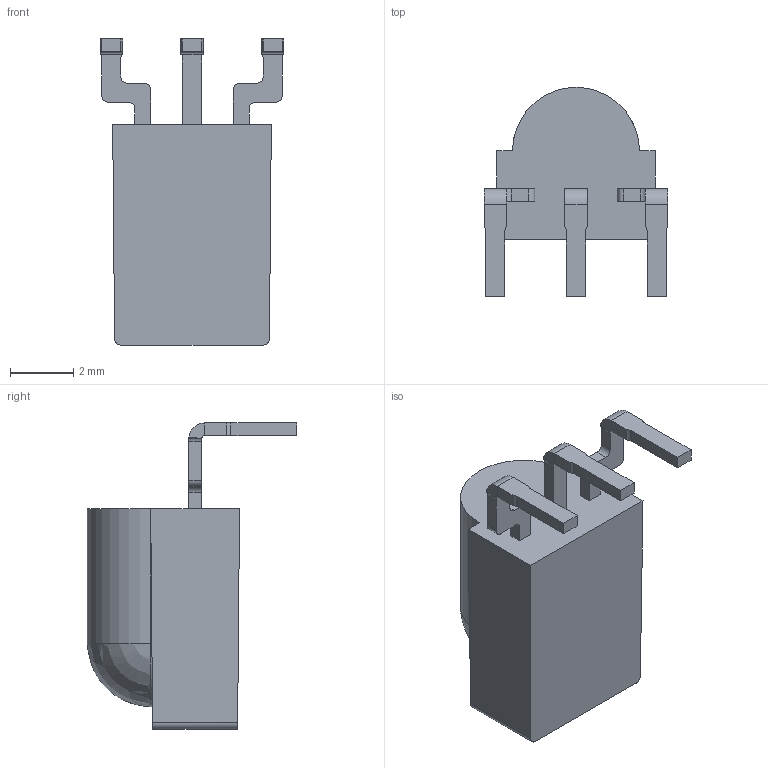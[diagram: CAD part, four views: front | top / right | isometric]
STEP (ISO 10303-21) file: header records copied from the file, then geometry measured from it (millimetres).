
FILE_DESCRIPTION((''),'2;1');
FILE_NAME('C:\temp\Hauschildt\3D-files\Minicast\Minicast_SU.stp','2014-05-22T14:08:03',('gobenland'),(''),'Autodesk Inventor 2013','Autodesk Inventor 2013','');
FILE_SCHEMA(('AUTOMOTIVE_DESIGN { 1 0 10303 214 1 1 1 1 }'));
Length unit declared in the file: millimetre
Products named in the file (3): GO-100187.9; GO-100187; GO-100187.09
Assembly tree (2 placements, depth 2):
  GO-100187.9
    GO-100187
    GO-100187.09
Bounding box: 5.78 x 6.6 x 9.65 mm (x, y, z)
Volume: 134.2 mm3; surface area: 194.9 mm2
Topology: 4 solids, 4 shells, 95 faces, 241 edges, 152 vertices
Faces by surface type: plane 58, cylinder 30, bspline 6, sphere 1
Entity records: 3882 total; most frequent: CARTESIAN_POINT 1505, ORIENTED_EDGE 478, DIRECTION 475, EDGE_CURVE 239, VECTOR 167, LINE 167, AXIS2_PLACEMENT_3D 154, VERTEX_POINT 152
